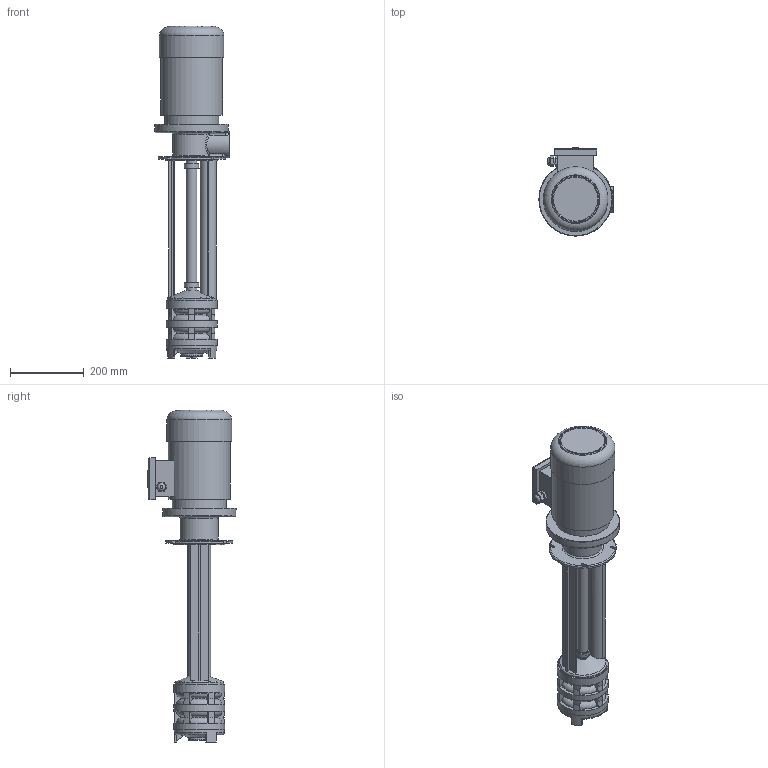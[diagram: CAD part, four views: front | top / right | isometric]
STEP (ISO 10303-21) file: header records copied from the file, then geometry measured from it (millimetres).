
FILE_DESCRIPTION(/* description */ ('Unknown'),/* implementation_level */ '2;1');
FILE_NAME(/* name */ 'gp3-540',/* time_stamp */ '2025-06-04T09:24:46+03:00',/* author */ ('Unknown'),/* organization */ ('Unknown'),/* preprocessor_version */ 'ST-DEVELOPER v16.7',/* originating_system */ 'DEX',/* authorisation */ $);
FILE_SCHEMA (('AUTOMOTIVE_DESIGN {1 0 10303 214 3 1 1}'));
Length unit declared in the file: millimetre
Products named in the file (1): gp3-540
Bounding box: 202 x 239.5 x 903 mm (x, y, z)
Volume: 11588259.6 mm3; surface area: 591521.6 mm2
Topology: 1 solids, 1 shells, 389 faces, 1003 edges, 648 vertices
Faces by surface type: plane 135, bspline 84, cylinder 79, cone 47, torus 44
Full cylindrical faces by diameter (mm): 17 x1, 21.5 x1, 29 x3, 33 x2, 35 x2, 39 x2, 40.5 x2, 45 x1, 47 x1, 60 x1, 137 x1, 139 x3, 140 x1, 168.001 x1, 176 x1, 200 x1
Entity records: 14419 total; most frequent: CARTESIAN_POINT 5589, ORIENTED_EDGE 1872, DIRECTION 1661, EDGE_CURVE 936, VERTEX_POINT 636, AXIS2_PLACEMENT_3D 626, EDGE_LOOP 480, FACE_BOUND 480
